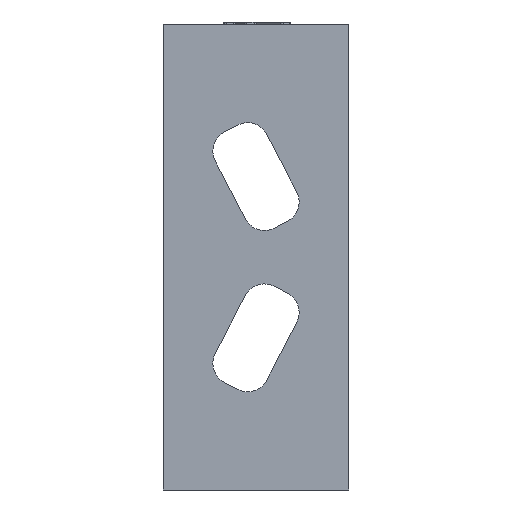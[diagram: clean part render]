
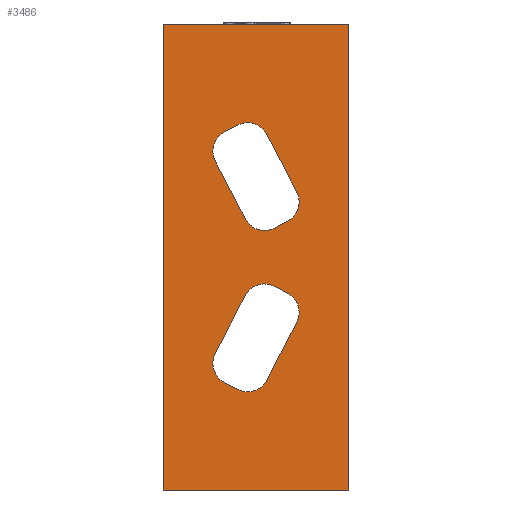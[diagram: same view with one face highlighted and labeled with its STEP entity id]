
A CAD part, left-side view. The second image highlights one B-rep face of the part: STEP entity #3486.
In plain terms, the highlighted planar face has unit normal (-1, 0, 0).
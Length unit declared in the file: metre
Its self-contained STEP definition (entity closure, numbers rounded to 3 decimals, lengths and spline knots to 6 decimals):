
#85=CIRCLE('',#3693,0.003621);
#86=CIRCLE('',#3694,0.003621);
#87=CIRCLE('',#3695,0.003621);
#88=CIRCLE('',#3696,0.003621);
#89=CIRCLE('',#3697,0.003621);
#90=CIRCLE('',#3698,0.003621);
#91=CIRCLE('',#3699,0.003621);
#92=CIRCLE('',#3700,0.003621);
#276=ORIENTED_EDGE('',*,*,#1333,.F.);
#277=ORIENTED_EDGE('',*,*,#1334,.F.);
#278=ORIENTED_EDGE('',*,*,#1335,.T.);
#279=ORIENTED_EDGE('',*,*,#1336,.F.);
#280=ORIENTED_EDGE('',*,*,#1337,.T.);
#281=ORIENTED_EDGE('',*,*,#1338,.F.);
#282=ORIENTED_EDGE('',*,*,#1339,.F.);
#283=ORIENTED_EDGE('',*,*,#1340,.F.);
#284=ORIENTED_EDGE('',*,*,#1341,.T.);
#285=ORIENTED_EDGE('',*,*,#1342,.F.);
#286=ORIENTED_EDGE('',*,*,#1343,.F.);
#287=ORIENTED_EDGE('',*,*,#1344,.T.);
#288=ORIENTED_EDGE('',*,*,#1345,.T.);
#289=ORIENTED_EDGE('',*,*,#1346,.T.);
#290=ORIENTED_EDGE('',*,*,#1347,.T.);
#291=ORIENTED_EDGE('',*,*,#1348,.F.);
#292=ORIENTED_EDGE('',*,*,#1349,.T.);
#293=ORIENTED_EDGE('',*,*,#1350,.F.);
#294=ORIENTED_EDGE('',*,*,#1351,.T.);
#295=ORIENTED_EDGE('',*,*,#1352,.T.);
#1333=EDGE_CURVE('',#1857,#1858,#2207,.T.);
#1334=EDGE_CURVE('',#1859,#1857,#85,.F.);
#1335=EDGE_CURVE('',#1859,#1860,#2208,.T.);
#1336=EDGE_CURVE('',#1861,#1860,#86,.F.);
#1337=EDGE_CURVE('',#1861,#1862,#2209,.T.);
#1338=EDGE_CURVE('',#1863,#1862,#87,.F.);
#1339=EDGE_CURVE('',#1864,#1863,#2210,.T.);
#1340=EDGE_CURVE('',#1858,#1864,#88,.F.);
#1341=EDGE_CURVE('',#1865,#1866,#2211,.T.);
#1342=EDGE_CURVE('',#1867,#1866,#2212,.T.);
#1343=EDGE_CURVE('',#1868,#1867,#2213,.T.);
#1344=EDGE_CURVE('',#1868,#1865,#2214,.T.);
#1345=EDGE_CURVE('',#1869,#1870,#89,.T.);
#1346=EDGE_CURVE('',#1870,#1871,#2215,.T.);
#1347=EDGE_CURVE('',#1871,#1872,#90,.T.);
#1348=EDGE_CURVE('',#1873,#1872,#2216,.T.);
#1349=EDGE_CURVE('',#1873,#1874,#91,.T.);
#1350=EDGE_CURVE('',#1875,#1874,#2217,.T.);
#1351=EDGE_CURVE('',#1875,#1876,#92,.T.);
#1352=EDGE_CURVE('',#1876,#1869,#2218,.T.);
#1857=VERTEX_POINT('',#5160);
#1858=VERTEX_POINT('',#5161);
#1859=VERTEX_POINT('',#5163);
#1860=VERTEX_POINT('',#5165);
#1861=VERTEX_POINT('',#5167);
#1862=VERTEX_POINT('',#5169);
#1863=VERTEX_POINT('',#5171);
#1864=VERTEX_POINT('',#5173);
#1865=VERTEX_POINT('',#5176);
#1866=VERTEX_POINT('',#5177);
#1867=VERTEX_POINT('',#5179);
#1868=VERTEX_POINT('',#5181);
#1869=VERTEX_POINT('',#5184);
#1870=VERTEX_POINT('',#5185);
#1871=VERTEX_POINT('',#5187);
#1872=VERTEX_POINT('',#5189);
#1873=VERTEX_POINT('',#5191);
#1874=VERTEX_POINT('',#5193);
#1875=VERTEX_POINT('',#5195);
#1876=VERTEX_POINT('',#5197);
#2207=LINE('',#5159,#2607);
#2208=LINE('',#5164,#2608);
#2209=LINE('',#5168,#2609);
#2210=LINE('',#5172,#2610);
#2211=LINE('',#5175,#2611);
#2212=LINE('',#5178,#2612);
#2213=LINE('',#5180,#2613);
#2214=LINE('',#5182,#2614);
#2215=LINE('',#5186,#2615);
#2216=LINE('',#5190,#2616);
#2217=LINE('',#5194,#2617);
#2218=LINE('',#5198,#2618);
#2607=VECTOR('',#4082,1.);
#2608=VECTOR('',#4085,1.);
#2609=VECTOR('',#4088,1.);
#2610=VECTOR('',#4091,1.);
#2611=VECTOR('',#4094,1.);
#2612=VECTOR('',#4095,1.);
#2613=VECTOR('',#4096,1.);
#2614=VECTOR('',#4097,1.);
#2615=VECTOR('',#4100,1.);
#2616=VECTOR('',#4103,1.);
#2617=VECTOR('',#4106,1.);
#2618=VECTOR('',#4109,1.);
#2955=EDGE_LOOP('',(#276,#277,#278,#279,#280,#281,#282,#283));
#2956=EDGE_LOOP('',(#284,#285,#286,#287));
#2957=EDGE_LOOP('',(#288,#289,#290,#291,#292,#293,#294,#295));
#3161=FACE_BOUND('',#2955,.T.);
#3162=FACE_BOUND('',#2956,.T.);
#3163=FACE_BOUND('',#2957,.T.);
#3366=PLANE('',#3692);
#3486=ADVANCED_FACE('',(#3161,#3162,#3163),#3366,.F.);
#3692=AXIS2_PLACEMENT_3D('',#5158,#4080,#4081);
#3693=AXIS2_PLACEMENT_3D('',#5162,#4083,#4084);
#3694=AXIS2_PLACEMENT_3D('',#5166,#4086,#4087);
#3695=AXIS2_PLACEMENT_3D('',#5170,#4089,#4090);
#3696=AXIS2_PLACEMENT_3D('',#5174,#4092,#4093);
#3697=AXIS2_PLACEMENT_3D('',#5183,#4098,#4099);
#3698=AXIS2_PLACEMENT_3D('',#5188,#4101,#4102);
#3699=AXIS2_PLACEMENT_3D('',#5192,#4104,#4105);
#3700=AXIS2_PLACEMENT_3D('',#5196,#4107,#4108);
#4080=DIRECTION('',(1.,0.,0.));
#4081=DIRECTION('',(0.,-1.,0.));
#4082=DIRECTION('',(0.,0.459,-0.888));
#4083=DIRECTION('',(1.,0.,0.));
#4084=DIRECTION('',(0.,-1.,0.));
#4085=DIRECTION('',(0.,-0.888,-0.459));
#4086=DIRECTION('',(1.,0.,0.));
#4087=DIRECTION('',(0.,-1.,0.));
#4088=DIRECTION('',(0.,0.459,-0.888));
#4089=DIRECTION('',(1.,0.,0.));
#4090=DIRECTION('',(0.,-1.,0.));
#4091=DIRECTION('',(0.,-0.888,-0.459));
#4092=DIRECTION('',(1.,0.,0.));
#4093=DIRECTION('',(0.,-1.,0.));
#4094=DIRECTION('',(0.,0.,1.));
#4095=DIRECTION('',(0.,-1.,0.));
#4096=DIRECTION('',(0.,0.,1.));
#4097=DIRECTION('',(0.,-1.,0.));
#4098=DIRECTION('',(1.,0.,0.));
#4099=DIRECTION('',(0.,-1.,0.));
#4100=DIRECTION('',(0.,-0.888,0.459));
#4101=DIRECTION('',(1.,0.,0.));
#4102=DIRECTION('',(0.,-1.,0.));
#4103=DIRECTION('',(0.,0.459,0.888));
#4104=DIRECTION('',(1.,0.,0.));
#4105=DIRECTION('',(0.,-1.,0.));
#4106=DIRECTION('',(0.,-0.888,0.459));
#4107=DIRECTION('',(1.,0.,0.));
#4108=DIRECTION('',(0.,-1.,0.));
#4109=DIRECTION('',(0.,0.459,0.888));
#5158=CARTESIAN_POINT('',(-0.092426,0.031,0.002929));
#5159=CARTESIAN_POINT('',(-0.092426,0.017576,-0.004009));
#5160=CARTESIAN_POINT('',(-0.092426,0.017314,-0.003502));
#5161=CARTESIAN_POINT('',(-0.092426,0.022323,-0.013195));
#5162=CARTESIAN_POINT('',(-0.092426,0.014097,-0.005164));
#5163=CARTESIAN_POINT('',(-0.092426,0.012434,-0.001947));
#5164=CARTESIAN_POINT('',(-0.092426,0.029075,0.006653));
#5165=CARTESIAN_POINT('',(-0.092426,0.010229,-0.003087));
#5166=CARTESIAN_POINT('',(-0.092426,0.011891,-0.006304));
#5167=CARTESIAN_POINT('',(-0.092426,0.008674,-0.007966));
#5168=CARTESIAN_POINT('',(-0.092426,0.008936,-0.008473));
#5169=CARTESIAN_POINT('',(-0.092426,0.013684,-0.017659));
#5170=CARTESIAN_POINT('',(-0.092426,0.016901,-0.015997));
#5171=CARTESIAN_POINT('',(-0.092426,0.018563,-0.019214));
#5172=CARTESIAN_POINT('',(-0.092426,0.03741,-0.009474));
#5173=CARTESIAN_POINT('',(-0.092426,0.020769,-0.018074));
#5174=CARTESIAN_POINT('',(-0.092426,0.019106,-0.014857));
#5175=CARTESIAN_POINT('',(-0.092426,0.,0.002929));
#5176=CARTESIAN_POINT('',(-0.092426,0.,-0.036071));
#5177=CARTESIAN_POINT('',(-0.092426,0.,0.041929));
#5178=CARTESIAN_POINT('',(-0.092426,0.031,0.041929));
#5179=CARTESIAN_POINT('',(-0.092426,0.031,0.041929));
#5180=CARTESIAN_POINT('',(-0.092426,0.031,0.002929));
#5181=CARTESIAN_POINT('',(-0.092426,0.031,-0.036071));
#5182=CARTESIAN_POINT('',(-0.092426,0.031,-0.036071));
#5183=CARTESIAN_POINT('',(-0.092426,0.019106,0.020715));
#5184=CARTESIAN_POINT('',(-0.092426,0.022323,0.019052));
#5185=CARTESIAN_POINT('',(-0.092426,0.020769,0.023932));
#5186=CARTESIAN_POINT('',(-0.092426,0.03741,0.015332));
#5187=CARTESIAN_POINT('',(-0.092426,0.018563,0.025072));
#5188=CARTESIAN_POINT('',(-0.092426,0.016901,0.021855));
#5189=CARTESIAN_POINT('',(-0.092426,0.013684,0.023517));
#5190=CARTESIAN_POINT('',(-0.092426,0.008936,0.014331));
#5191=CARTESIAN_POINT('',(-0.092426,0.008674,0.013824));
#5192=CARTESIAN_POINT('',(-0.092426,0.011891,0.012161));
#5193=CARTESIAN_POINT('',(-0.092426,0.010229,0.008944));
#5194=CARTESIAN_POINT('',(-0.092426,0.029075,-0.000795));
#5195=CARTESIAN_POINT('',(-0.092426,0.012434,0.007805));
#5196=CARTESIAN_POINT('',(-0.092426,0.014097,0.011022));
#5197=CARTESIAN_POINT('',(-0.092426,0.017314,0.009359));
#5198=CARTESIAN_POINT('',(-0.092426,0.017576,0.009866));
